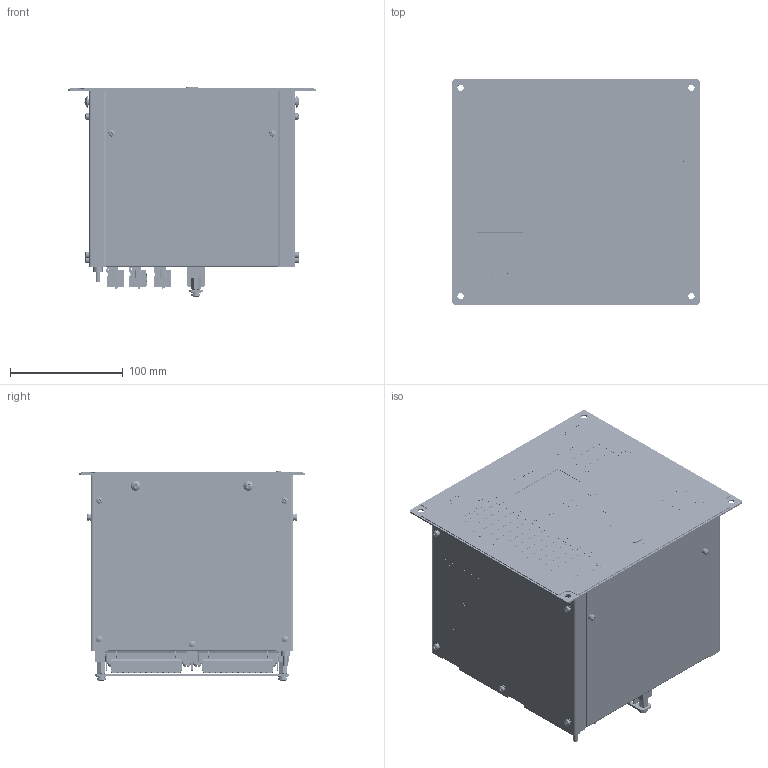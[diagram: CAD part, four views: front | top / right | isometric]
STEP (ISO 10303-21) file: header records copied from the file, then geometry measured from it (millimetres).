
FILE_DESCRIPTION(('STEP AP214'), '1');
FILE_NAME('ﾒﾐﾁﾍ.656122.011-11_16_17_18_66_67 - ﾊﾈﾒ-ﾐ', '', ('UNSPECIFIED'), ('UNSPECIFIED'), 'C3D Converter', 'C3D Toolkit', '');
FILE_SCHEMA(('AUTOMOTIVE_DESIGN { 1 0 10303 214 3 1 1}'));
Length unit declared in the file: millimetre
Products named in the file (76): ТРБН.656122.001-11_16_17_18_66_67; ТРБН.741128.001; ТРБН.745222.001; ТРБН.301732.001; ТРБН.745422.001; ТРБН.301261.011-10; ТРБН.745512.011-10; ТРБН.434416.011; ТРБН.754342.001; ТРБН.754342.002; ТРБН.434416.012; ТРБН.754342.002-01; ТРБН.434416.013; ТРБН.754342.002-02; ТРБН.434416.014; ТРБН.754342.001-01; ТРБН.754342.002-05; ТРБН.434416.015; ТРБН.754342.002-06; ТРБН.741134.002; ТРБН.754312.001; ТРБН.754342.006; 45H-08P; 45H-08P-01; 691317510004; 6913175100xx_PIN; 6913175100xx_INSERT; 2EDGRHM-5.08-24P-14-00A(H); ТРБН.434416.016; ТРБН.754342.002-07; ТРБН.434416.017; ТРБН.754342.002-08; X1; 615008185121_(rev1); 615008185x21_Housing; 615008185x21_Shelding; 615008185x21_YellowLed; 615008185x21_GreenLed; 615008185x21_LedPin; 615008185x21_Pin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
Assembly tree (143 placements, depth 4):
  ТРБН.656122.001-11_16_17_18_66_67
    (unnamed)
      ТРБН.741128.001
      ТРБН.745222.001  x2
    ТРБН.301732.001  x2
      ТРБН.745422.001
      (unnamed)
      (unnamed)
    ТРБН.301261.011-10
      ТРБН.745512.011-10
      (unnamed)  x2
      (unnamed)
    (unnamed)
    (unnamed)
    (unnamed)
    (unnamed)
    (unnamed)  x10
    (unnamed)
    (unnamed)  x3
    (unnamed)  x12
    (unnamed)  x2
    (unnamed)  x2
    (unnamed)  x4
    (unnamed)
    (unnamed)
    ТРБН.434416.011
      (unnamed)
      ТРБН.754342.001
      ТРБН.754342.002
    ТРБН.434416.012
      (unnamed)
      ТРБН.754342.001
      ТРБН.754342.002-01
    ТРБН.434416.013
      (unnamed)
      ТРБН.754342.001
      ТРБН.754342.002-02
    ТРБН.434416.014
      (unnamed)
      ТРБН.754342.001-01
      ТРБН.754342.002-05
    ТРБН.434416.015
      (unnamed)
      ТРБН.754342.001-01
      ТРБН.754342.002-06
    ТРБН.741134.002
    ТРБН.754312.001
    (unnamed)
    (unnamed)
    (unnamed)
    (unnamed)
    ТРБН.754342.006
    (unnamed)
    (unnamed)
    (unnamed)  x10
    (unnamed)  x2
    (unnamed)
    (unnamed)
      45H-08P
      45H-08P-01
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Bounding box: 220 x 200 x 187.02 mm (x, y, z)
Volume: 449984.9 mm3; surface area: 661398.3 mm2
Topology: 278 solids, 296 shells, 37424 faces, 105535 edges, 69629 vertices
Faces by surface type: plane 22504, cylinder 11131, extrusion 2847, torus 500, bspline 224, cone 197, sphere 21
Full cylindrical faces by diameter (mm): 0.405 x8, 0.482 x8, 0.804 x1, 1.1 x4, 1.371 x1, 1.6 x8, 1.771 x1, 1.8 x14, 2.459 x6, 2.5 x14, 2.6 x12, 2.75 x12, 3 x14, 3.2 x22, 3.242 x3, 3.3 x60, 3.301 x16, 3.4 x8, 3.5 x78, 3.85 x14, 4 x68, 4.2 x6, 4.22 x6, 4.3 x2, 4.5 x9, 5 x6, 5.6 x20, 5.7 x4, 6 x15, 6.35 x6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
Entity records: 1215930 total; most frequent: CARTESIAN_POINT 234355, ORIENTED_EDGE 163878, DIRECTION 146021, EDGE_CURVE 81939, VECTOR 60657, LINE 57810, VERTEX_POINT 54459, AXIS2_PLACEMENT_3D 42682
